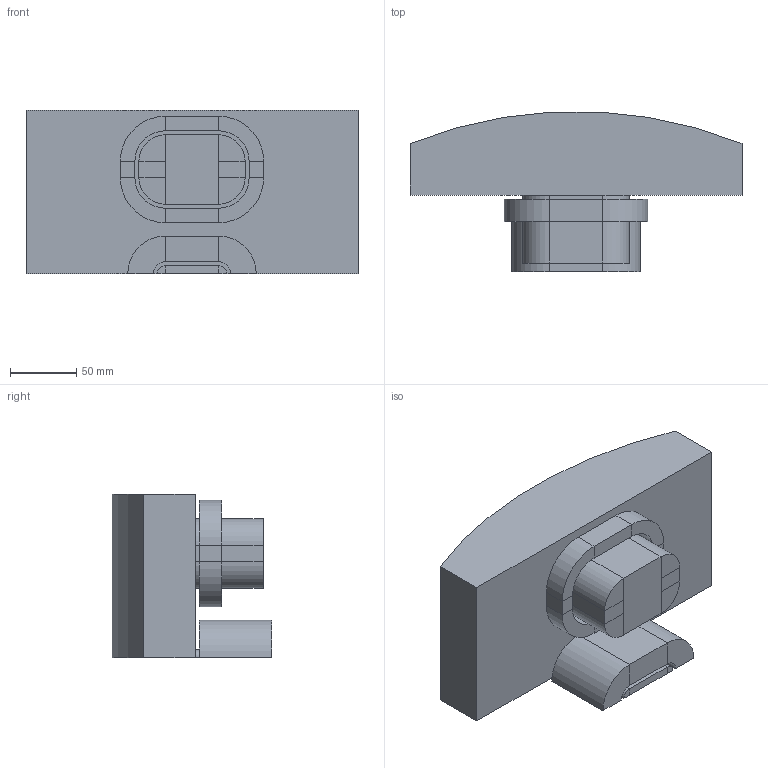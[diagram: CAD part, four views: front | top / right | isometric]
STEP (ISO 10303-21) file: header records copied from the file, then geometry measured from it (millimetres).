
FILE_DESCRIPTION(('STEP AP214'),'1');
FILE_NAME('SWLS_Sirius_Model9.0_step.step','2023-01-30T12:22:45',(' '),(' '),'Spatial InterOp 3D',' ',' ');
FILE_SCHEMA(('AUTOMOTIVE_DESIGN { 1 0 10303 214 1 1 1 1 }'));
Length unit declared in the file: millimetre
Products named in the file (1): Yoke
Bounding box: 250 x 120.11 x 123 mm (x, y, z)
Volume: 2063797.1 mm3; surface area: 185657 mm2
Topology: 22 solids, 22 shells, 126 faces, 246 edges, 164 vertices
Faces by surface type: plane 107, cylinder 19
Entity records: 3464 total; most frequent: DIRECTION 580, CARTESIAN_POINT 558, ORIENTED_EDGE 492, EDGE_CURVE 246, LINE 208, VECTOR 208, AXIS2_PLACEMENT_3D 186, VERTEX_POINT 164
